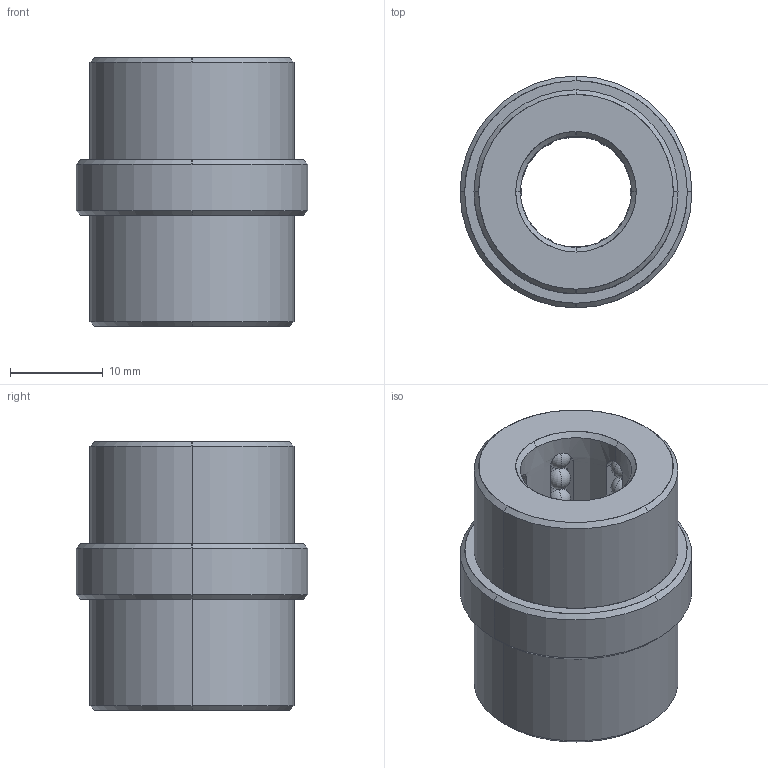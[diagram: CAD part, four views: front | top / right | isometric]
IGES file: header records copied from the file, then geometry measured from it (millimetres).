
Start section: START RECORD GO HERE.
Global section: file name: B844121217.igs; native system: DASSAULT SYSTEMES CATIA V5 R20 - www.3ds.com; preprocessor: CATIA Version 5 Release 20 ; author: Utente; organization: NB04-ASUS; date: 20200419.200846; units: millimetre
Bounding box: 25 x 25 x 29 mm (x, y, z)
Surface area: 5627.2 mm2 (no closed solid volume)
Topology: 0 solids, 0 shells, 282 faces, 1188 edges, 756 vertices
Faces by surface type: revolution 260, plane 22
